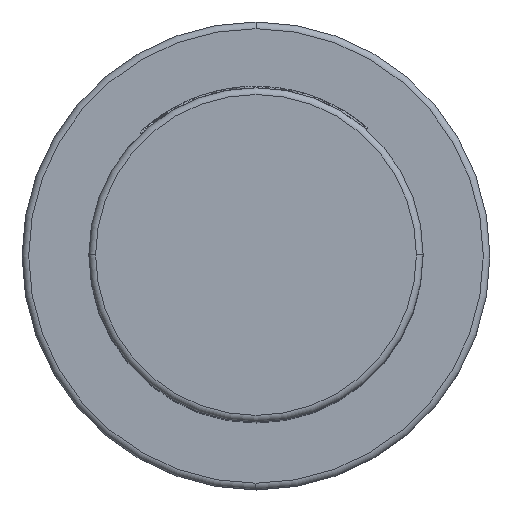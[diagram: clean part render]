
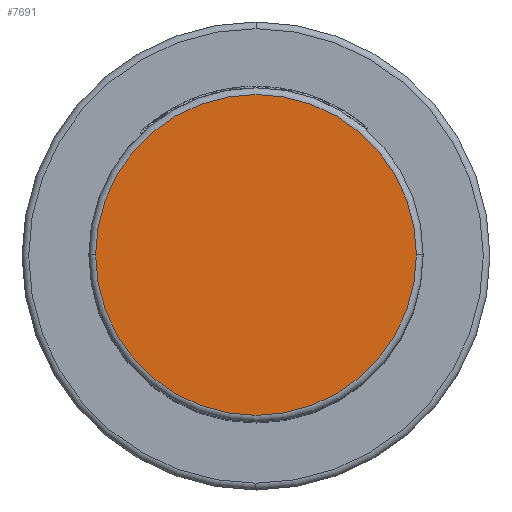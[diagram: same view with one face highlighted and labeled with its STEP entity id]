
A CAD part, top view. The second image highlights one B-rep face of the part: STEP entity #7691.
In plain terms, the highlighted planar face has unit normal (0, 0, 1).
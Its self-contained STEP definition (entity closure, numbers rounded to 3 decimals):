
#1=CARTESIAN_POINT('',(0.,0.,43.5));
#2=DIRECTION('',(0.,0.,1.));
#3=DIRECTION('',(-1.,0.,0.));
#4=AXIS2_PLACEMENT_3D('',#1,#2,#3);
#6=CARTESIAN_POINT('',(0.,0.,43.5));
#7=DIRECTION('',(0.,0.,1.));
#8=DIRECTION('',(1.,0.,0.));
#9=AXIS2_PLACEMENT_3D('',#6,#7,#8);
#6846=CARTESIAN_POINT('',(-24.,0.,43.5));
#6847=CARTESIAN_POINT('',(24.,0.,43.5));
#6848=VERTEX_POINT('',#6846);
#6849=VERTEX_POINT('',#6847);
#7680=CARTESIAN_POINT('',(0.,0.,43.5));
#7681=DIRECTION('',(0.,0.,1.));
#7682=DIRECTION('',(1.,0.,0.));
#7683=AXIS2_PLACEMENT_3D('',#7680,#7681,#7682);
#7684=PLANE('',#7683);
#7686=ORIENTED_EDGE('',*,*,#7685,.F.);
#7688=ORIENTED_EDGE('',*,*,#7687,.F.);
#7689=EDGE_LOOP('',(#7686,#7688));
#7690=FACE_OUTER_BOUND('',#7689,.F.);
#7691=ADVANCED_FACE('',(#7690),#7684,.T.);
#5=CIRCLE('',#4,24.);
#10=CIRCLE('',#9,24.);
#7685=EDGE_CURVE('',#6848,#6849,#5,.T.);
#7687=EDGE_CURVE('',#6849,#6848,#10,.T.);
